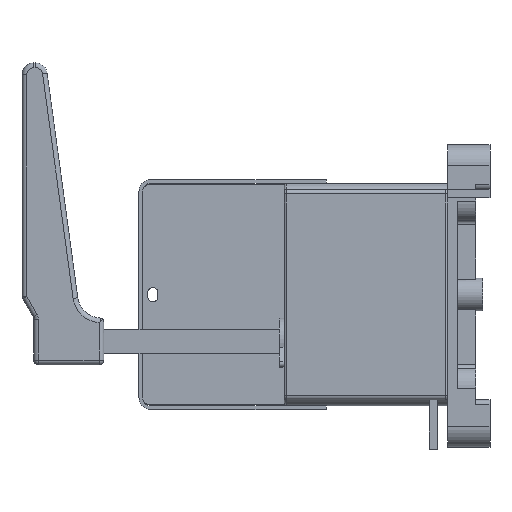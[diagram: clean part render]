
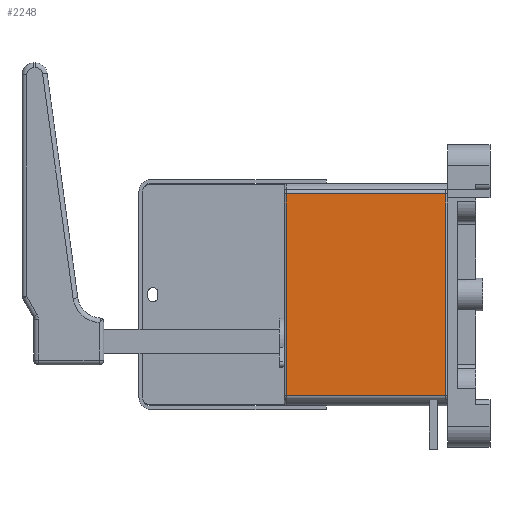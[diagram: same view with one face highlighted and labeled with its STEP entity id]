
A CAD part, left-side view. The second image highlights one B-rep face of the part: STEP entity #2248.
In plain terms, the highlighted planar face has unit normal (-1, 0, 0).
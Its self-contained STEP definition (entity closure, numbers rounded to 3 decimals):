
#2248=ADVANCED_FACE('',(#3628),#2818,.F.);
#2818=PLANE('',#18825);
#3628=FACE_OUTER_BOUND('',#4717,.T.);
#4717=EDGE_LOOP('',(#9379,#9380,#9381,#9382));
#9379=ORIENTED_EDGE('',*,*,#13710,.F.);
#9380=ORIENTED_EDGE('',*,*,#13708,.T.);
#9381=ORIENTED_EDGE('',*,*,#13711,.T.);
#9382=ORIENTED_EDGE('',*,*,#13409,.T.);
#11078=VERTEX_POINT('',#28107);
#11080=VERTEX_POINT('',#28113);
#11275=VERTEX_POINT('',#28793);
#11277=VERTEX_POINT('',#28814);
#13409=EDGE_CURVE('',#11078,#11080,#15325,.T.);
#13708=EDGE_CURVE('',#11275,#11277,#15494,.T.);
#13710=EDGE_CURVE('',#11275,#11080,#15496,.T.);
#13711=EDGE_CURVE('',#11277,#11078,#15497,.T.);
#15325=LINE('',#28114,#17099);
#15494=LINE('',#28834,#17268);
#15496=LINE('',#28837,#17270);
#15497=LINE('',#28839,#17271);
#17099=VECTOR('',#23010,1.);
#17268=VECTOR('',#23663,1.);
#17270=VECTOR('',#23667,1.);
#17271=VECTOR('',#23670,1.);
#18825=AXIS2_PLACEMENT_3D('',#28840,#23671,#23672);
#23010=DIRECTION('',(0.,0.,1.));
#23663=DIRECTION('',(0.,0.,-1.));
#23667=DIRECTION('',(0.,-1.,0.));
#23670=DIRECTION('',(0.,-1.,0.));
#23671=DIRECTION('',(1.,0.,0.));
#23672=DIRECTION('',(0.,0.,-1.));
#28107=CARTESIAN_POINT('',(-41.,1.,-43.));
#28113=CARTESIAN_POINT('',(-41.,1.,43.));
#28114=CARTESIAN_POINT('',(-41.,1.,-43.));
#28793=CARTESIAN_POINT('',(-41.,69.,43.));
#28814=CARTESIAN_POINT('',(-41.,69.,-43.));
#28834=CARTESIAN_POINT('',(-41.,69.,-43.));
#28837=CARTESIAN_POINT('',(-41.,35.,43.));
#28839=CARTESIAN_POINT('',(-41.,35.,-43.));
#28840=CARTESIAN_POINT('',(-41.,35.,-43.));
